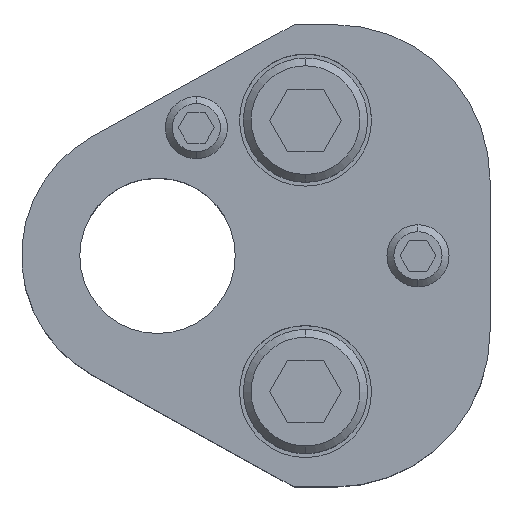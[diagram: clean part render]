
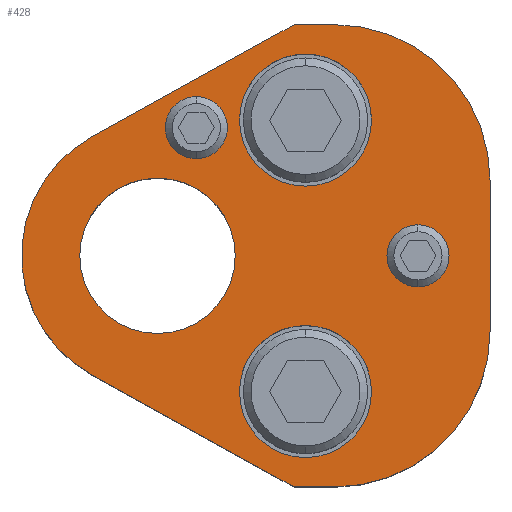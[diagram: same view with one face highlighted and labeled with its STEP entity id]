
A CAD part, top view. The second image highlights one B-rep face of the part: STEP entity #428.
In plain terms, the highlighted planar face has unit normal (0, 0, 1).
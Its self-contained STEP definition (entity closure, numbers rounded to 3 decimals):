
#198=FACE_BOUND('',#745,.T.);
#199=FACE_BOUND('',#746,.T.);
#200=FACE_BOUND('',#747,.T.);
#201=FACE_BOUND('',#748,.T.);
#202=FACE_BOUND('',#749,.T.);
#203=FACE_BOUND('',#750,.T.);
#276=CIRCLE('',#2330,20.);
#278=CIRCLE('',#2334,20.);
#281=CIRCLE('',#2340,17.5);
#282=CIRCLE('',#2342,4.);
#284=CIRCLE('',#2345,4.);
#286=CIRCLE('',#2348,4.);
#288=CIRCLE('',#2351,4.);
#298=CIRCLE('',#2366,8.5);
#299=CIRCLE('',#2367,8.5);
#300=CIRCLE('',#2368,8.5);
#301=CIRCLE('',#2369,8.5);
#302=CIRCLE('',#2370,10.);
#303=CIRCLE('',#2371,10.);
#428=ADVANCED_FACE('',(#198,#199,#200,#201,#202,#203),#522,.T.);
#522=PLANE('',#2372);
#745=EDGE_LOOP('',(#1129,#1130,#1131,#1132,#1133,#1134,#1135,#1136));
#746=EDGE_LOOP('',(#1137,#1138));
#747=EDGE_LOOP('',(#1139,#1140));
#748=EDGE_LOOP('',(#1141,#1142));
#749=EDGE_LOOP('',(#1143,#1144));
#750=EDGE_LOOP('',(#1145,#1146));
#1129=ORIENTED_EDGE('',*,*,#1724,.T.);
#1130=ORIENTED_EDGE('',*,*,#1728,.T.);
#1131=ORIENTED_EDGE('',*,*,#1731,.T.);
#1132=ORIENTED_EDGE('',*,*,#1734,.T.);
#1133=ORIENTED_EDGE('',*,*,#1737,.T.);
#1134=ORIENTED_EDGE('',*,*,#1740,.T.);
#1135=ORIENTED_EDGE('',*,*,#1743,.T.);
#1136=ORIENTED_EDGE('',*,*,#1746,.T.);
#1137=ORIENTED_EDGE('',*,*,#1771,.F.);
#1138=ORIENTED_EDGE('',*,*,#1772,.F.);
#1139=ORIENTED_EDGE('',*,*,#1773,.F.);
#1140=ORIENTED_EDGE('',*,*,#1774,.F.);
#1141=ORIENTED_EDGE('',*,*,#1757,.F.);
#1142=ORIENTED_EDGE('',*,*,#1753,.F.);
#1143=ORIENTED_EDGE('',*,*,#1751,.F.);
#1144=ORIENTED_EDGE('',*,*,#1747,.F.);
#1145=ORIENTED_EDGE('',*,*,#1775,.T.);
#1146=ORIENTED_EDGE('',*,*,#1776,.T.);
#1492=VERTEX_POINT('',#3476);
#1493=VERTEX_POINT('',#3478);
#1496=VERTEX_POINT('',#3485);
#1498=VERTEX_POINT('',#3491);
#1500=VERTEX_POINT('',#3497);
#1502=VERTEX_POINT('',#3503);
#1504=VERTEX_POINT('',#3509);
#1506=VERTEX_POINT('',#3515);
#1507=VERTEX_POINT('',#3523);
#1508=VERTEX_POINT('',#3524);
#1511=VERTEX_POINT('',#3535);
#1512=VERTEX_POINT('',#3536);
#1523=VERTEX_POINT('',#3571);
#1524=VERTEX_POINT('',#3572);
#1525=VERTEX_POINT('',#3575);
#1526=VERTEX_POINT('',#3576);
#1527=VERTEX_POINT('',#3579);
#1528=VERTEX_POINT('',#3580);
#1724=EDGE_CURVE('',#1493,#1492,#1968,.T.);
#1728=EDGE_CURVE('',#1492,#1496,#1972,.T.);
#1731=EDGE_CURVE('',#1496,#1498,#276,.T.);
#1734=EDGE_CURVE('',#1498,#1500,#1976,.T.);
#1737=EDGE_CURVE('',#1500,#1502,#278,.T.);
#1740=EDGE_CURVE('',#1502,#1504,#1980,.T.);
#1743=EDGE_CURVE('',#1504,#1506,#1983,.T.);
#1746=EDGE_CURVE('',#1506,#1493,#281,.T.);
#1747=EDGE_CURVE('',#1507,#1508,#282,.T.);
#1751=EDGE_CURVE('',#1508,#1507,#284,.T.);
#1753=EDGE_CURVE('',#1511,#1512,#286,.T.);
#1757=EDGE_CURVE('',#1512,#1511,#288,.T.);
#1771=EDGE_CURVE('',#1523,#1524,#298,.T.);
#1772=EDGE_CURVE('',#1524,#1523,#299,.T.);
#1773=EDGE_CURVE('',#1525,#1526,#300,.T.);
#1774=EDGE_CURVE('',#1526,#1525,#301,.T.);
#1775=EDGE_CURVE('',#1527,#1528,#302,.T.);
#1776=EDGE_CURVE('',#1528,#1527,#303,.T.);
#1968=LINE('',#3477,#2132);
#1972=LINE('',#3486,#2136);
#1976=LINE('',#3498,#2140);
#1980=LINE('',#3510,#2144);
#1983=LINE('',#3516,#2147);
#2132=VECTOR('',#2758,1.);
#2136=VECTOR('',#2764,1.);
#2140=VECTOR('',#2776,1.);
#2144=VECTOR('',#2788,1.);
#2147=VECTOR('',#2793,1.);
#2330=AXIS2_PLACEMENT_3D('',#3492,#2769,#2770);
#2334=AXIS2_PLACEMENT_3D('',#3504,#2781,#2782);
#2340=AXIS2_PLACEMENT_3D('',#3520,#2799,#2800);
#2342=AXIS2_PLACEMENT_3D('',#3522,#2803,#2804);
#2345=AXIS2_PLACEMENT_3D('',#3531,#2811,#2812);
#2348=AXIS2_PLACEMENT_3D('',#3534,#2817,#2818);
#2351=AXIS2_PLACEMENT_3D('',#3543,#2825,#2826);
#2366=AXIS2_PLACEMENT_3D('',#3570,#2859,#2860);
#2367=AXIS2_PLACEMENT_3D('',#3573,#2861,#2862);
#2368=AXIS2_PLACEMENT_3D('',#3574,#2863,#2864);
#2369=AXIS2_PLACEMENT_3D('',#3577,#2865,#2866);
#2370=AXIS2_PLACEMENT_3D('',#3578,#2867,#2868);
#2371=AXIS2_PLACEMENT_3D('',#3581,#2869,#2870);
#2372=AXIS2_PLACEMENT_3D('',#3582,#2871,#2872);
#2758=DIRECTION('',(0.875,-0.485,0.));
#2764=DIRECTION('',(1.,0.,0.));
#2769=DIRECTION('',(0.,0.,1.));
#2770=DIRECTION('',(-0.707,0.707,0.));
#2776=DIRECTION('',(0.,1.,0.));
#2781=DIRECTION('',(0.,0.,1.));
#2782=DIRECTION('',(-0.707,-0.707,0.));
#2788=DIRECTION('',(-1.,0.,0.));
#2793=DIRECTION('',(-0.875,-0.485,0.));
#2799=DIRECTION('',(0.,0.,1.));
#2800=DIRECTION('',(1.,0.,0.));
#2803=DIRECTION('',(0.,0.,1.));
#2804=DIRECTION('',(-1.,0.,0.));
#2811=DIRECTION('',(0.,0.,1.));
#2812=DIRECTION('',(1.,0.,0.));
#2817=DIRECTION('',(0.,0.,1.));
#2818=DIRECTION('',(-1.,0.,0.));
#2825=DIRECTION('',(0.,0.,1.));
#2826=DIRECTION('',(1.,0.,0.));
#2859=DIRECTION('',(0.,0.,1.));
#2860=DIRECTION('',(1.,0.,0.));
#2861=DIRECTION('',(0.,0.,1.));
#2862=DIRECTION('',(-1.,0.,0.));
#2863=DIRECTION('',(0.,0.,1.));
#2864=DIRECTION('',(1.,0.,0.));
#2865=DIRECTION('',(0.,0.,1.));
#2866=DIRECTION('',(-1.,0.,0.));
#2867=DIRECTION('',(0.,0.,-1.));
#2868=DIRECTION('',(-1.,0.,0.));
#2869=DIRECTION('',(0.,0.,-1.));
#2870=DIRECTION('',(1.,0.,0.));
#2871=DIRECTION('',(0.,0.,1.));
#2872=DIRECTION('',(-0.875,0.485,0.));
#3476=CARTESIAN_POINT('',(17.574,-29.75,25.));
#3477=CARTESIAN_POINT('',(17.574,-29.75,25.));
#3478=CARTESIAN_POINT('',(-8.484,-15.306,25.));
#3485=CARTESIAN_POINT('',(22.8,-29.75,25.));
#3486=CARTESIAN_POINT('',(17.574,-29.75,25.));
#3491=CARTESIAN_POINT('',(42.8,-9.75,25.));
#3492=CARTESIAN_POINT('',(22.8,-9.75,25.));
#3497=CARTESIAN_POINT('',(42.8,9.75,25.));
#3498=CARTESIAN_POINT('',(42.8,9.75,25.));
#3503=CARTESIAN_POINT('',(22.8,29.75,25.));
#3504=CARTESIAN_POINT('',(22.8,9.75,25.));
#3509=CARTESIAN_POINT('',(17.574,29.75,25.));
#3510=CARTESIAN_POINT('',(17.574,29.75,25.));
#3515=CARTESIAN_POINT('',(-8.484,15.306,25.));
#3516=CARTESIAN_POINT('',(17.574,29.75,25.));
#3520=CARTESIAN_POINT('',(0.,0.,25.));
#3522=CARTESIAN_POINT('',(5.,16.5,25.));
#3523=CARTESIAN_POINT('',(5.,12.5,25.));
#3524=CARTESIAN_POINT('',(5.,20.5,25.));
#3531=CARTESIAN_POINT('',(5.,16.5,25.));
#3534=CARTESIAN_POINT('',(33.53,0.,25.));
#3535=CARTESIAN_POINT('',(33.53,-4.,25.));
#3536=CARTESIAN_POINT('',(33.53,4.,25.));
#3543=CARTESIAN_POINT('',(33.53,0.,25.));
#3570=CARTESIAN_POINT('',(19.05,17.47,25.));
#3571=CARTESIAN_POINT('',(19.05,25.97,25.));
#3572=CARTESIAN_POINT('',(19.05,8.97,25.));
#3573=CARTESIAN_POINT('',(19.05,17.47,25.));
#3574=CARTESIAN_POINT('',(19.05,-17.47,25.));
#3575=CARTESIAN_POINT('',(19.05,-8.97,25.));
#3576=CARTESIAN_POINT('',(19.05,-25.97,25.));
#3577=CARTESIAN_POINT('',(19.05,-17.47,25.));
#3578=CARTESIAN_POINT('',(0.,0.,25.));
#3579=CARTESIAN_POINT('',(0.,10.,25.));
#3580=CARTESIAN_POINT('',(0.,-10.,25.));
#3581=CARTESIAN_POINT('',(0.,0.,25.));
#3582=CARTESIAN_POINT('',(-8.484,-15.306,25.));
